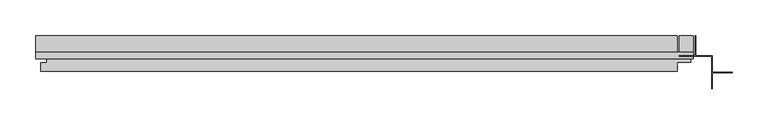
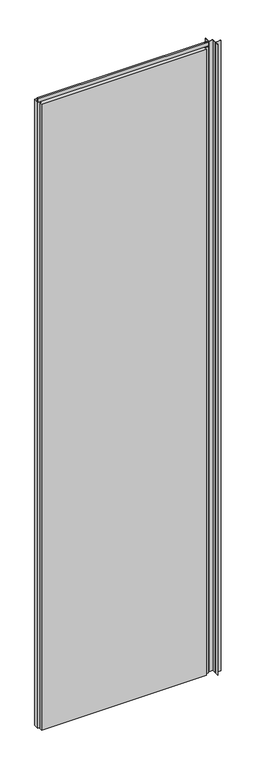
"""IFC4 building model written with IfcOpenShell, lengths in millimetres: plate geometry, Trimo_Qbiss Screen_Normal Panel-VERTICAL : HR - FB."""

from ifc_helpers import new_model, si_unit, frame, origin, place, context, project, spatial, polyline, outline, extrude, source, transform, mapped, element, save


def plate_a16a2f88(model_context):
    return source(origin(), model_context, "Body", "SweptSolid", [
        extrude(outline(polyline([(496.0, 97.0), (477.0, 97.0), (477.0, 126.0), (496.0, 126.0), (496.0, 97.0)])), frame((0.0, 0.0, 12.5), z_axis=(0.0, 0.0, 1.0), x_axis=(1.0, 0.0, 0.0)), (0.0, 0.0, 1.0), 3575.0),
        extrude(outline(polyline([(-425.0, 93.9), (-425.0, 102.6), (496.0, 102.6), (496.0, 93.9), (-425.0, 93.9)])), frame((0.0, 0.0, 3590.5), z_axis=(0.0, 0.0, 1.0), x_axis=(1.0, 0.0, 0.0)), (0.0, 0.0, 1.0), 19.0),
        extrude(outline(polyline([(474.0, 97.0), (492.5, 97.0), (492.5, 89.0), (474.0, 89.0), (474.0, 76.0), (-418.0, 76.0), (-418.0, 88.0), (-409.5, 88.0), (-409.5, 98.0), (-425.0, 98.0), (-425.0, 126.0), (474.0, 126.0), (474.0, 97.0)])), frame((0.0, 0.0, 12.5), z_axis=(0.0, 0.0, 1.0), x_axis=(1.0, 0.0, 0.0)), (0.0, 0.0, 1.0), 3575.0),
        extrude(outline(polyline([(499.0, 126.0), (499.8, 126.0), (499.8, 97.8), (522.8, 97.8), (522.8, 74.8), (551.0, 74.8), (551.0, 74.0), (522.8, 74.0), (522.8, 52.0), (522.0, 52.0), (522.0, 97.0), (477.0, 97.0), (477.0, 97.8), (499.0, 97.8), (499.0, 126.0)])), frame((0.0, 0.0, 12.5), z_axis=(0.0, 0.0, 1.0), x_axis=(1.0, 0.0, 0.0)), (0.0, 0.0, 1.0), 3600.0),
    ])


if __name__ == "__main__":
    model = new_model("IFC4")
    model_context = context("Model", 3, world=origin())
    ifc_project = project(units=[si_unit("LENGTHUNIT", "METRE", prefix="MILLI")], contexts=[model_context])
    site = spatial("IfcSite", under=ifc_project)
    building = spatial("IfcBuilding", under=site)
    placement = place(None, origin())
    plate_shape = plate_a16a2f88(model_context)
    element("IfcPlate", 1, ObjectType="Trimo_Qbiss Screen_Normal Panel-VERTICAL : HR - FB", at=placement, inside=building, context=model_context, shape_type="MappedRepresentation", body=[
        mapped(plate_shape, transform((0.0, 0.0, 0.0), x_axis=(1.0, 0.0, 0.0), y_axis=(0.0, 1.0, 0.0), z_axis=(0.0, 0.0, 1.0))),
    ])
    save(model, "model.ifc")
